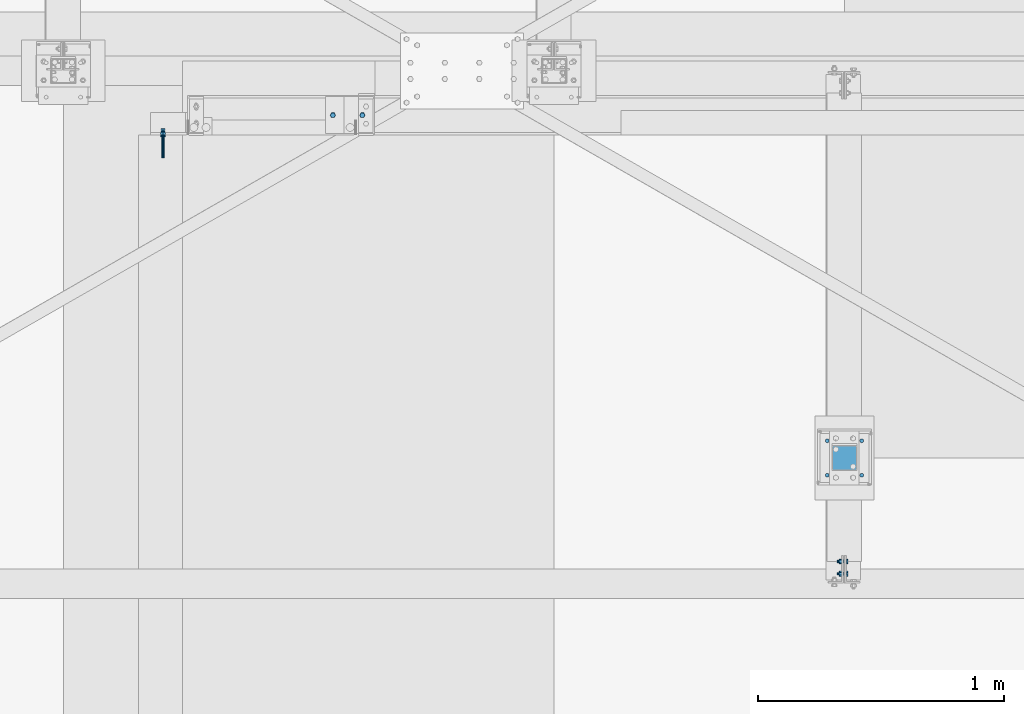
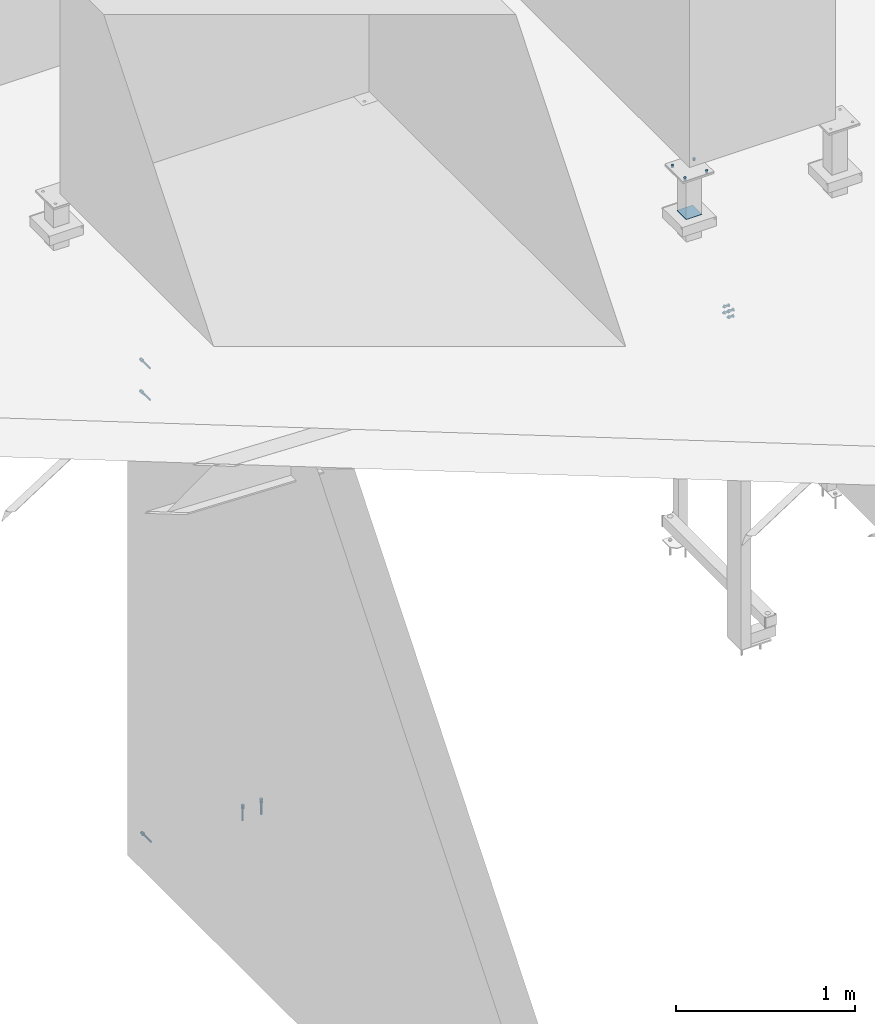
# One storey, part 367 of 3134: 7 mechanical fasteners, 5 elements without a shape of their own.
"""IFC2X3 building model written with IfcOpenShell, lengths in millimetres."""

from ifc_helpers import new_model, si_unit, frame, origin_with_axes, place, context, subcontext, project, spatial, faceted_brep, source, transform, mapped, material, type_object, element, aggregate, save


model = new_model("IFC2X3")

# Units and contexts
model_context = context("Model", 3, precision=1e-05, world=origin_with_axes())
body_context = subcontext(model_context, "Body", "Model", "MODEL_VIEW")
ifc_project = project(units=[si_unit("LENGTHUNIT", "METRE", prefix="MILLI"), si_unit("AREAUNIT", "SQUARE_METRE"), si_unit("VOLUMEUNIT", "CUBIC_METRE"), si_unit("MASSUNIT", "GRAM", prefix="KILO"), si_unit("TIMEUNIT", "SECOND"), si_unit("PLANEANGLEUNIT", "RADIAN"), si_unit("SOLIDANGLEUNIT", "STERADIAN"), si_unit("THERMODYNAMICTEMPERATUREUNIT", "DEGREE_CELSIUS"), si_unit("LUMINOUSINTENSITYUNIT", "LUMEN")], contexts=[model_context])

# Site, building, storey
site_placement = place(None, origin_with_axes())
site = spatial("IfcSite", under=ifc_project, at=site_placement, CompositionType="ELEMENT")
building_placement = place(site_placement, origin_with_axes())
building = spatial("IfcBuilding", under=site, at=building_placement, Name="Undefined", CompositionType="ELEMENT")
storey_placement = place(building_placement, origin_with_axes())
storey = spatial("IfcBuildingStorey", under=building, at=storey_placement, Name="Undefined", CompositionType="ELEMENT", Elevation=0.0)

# Assembly, mechanical fastener
assembly_1_placement = place(storey_placement, origin_with_axes())
assembly_1 = element("IfcElementAssembly", 1, at=assembly_1_placement, inside=storey, AssemblyPlace="NOTDEFINED", PredefinedType="RIGID_FRAME")
ifc_material_1 = material(Name="HILTI-HSA")
mechanical_fastener_type = type_object("IfcMechanicalFastenerType", Name="Bolt assembly")
shared_shape_1 = source(origin_with_axes(), body_context, "Body", "Brep", [
    faceted_brep([(10.3923048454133, -4.92, 0.0), (5.19615242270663, -4.92, 9.0), (-5.19615242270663, -4.92, 9.0), (-10.3923048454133, -4.92, 1.27269028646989e-15), (-5.19615242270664, -4.92, -9.0), (5.19615242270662, -4.92, -9.0), (5.19615242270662, 3.0, -9.0), (-5.19615242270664, 3.0, -9.0), (-10.3923048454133, 3.0, 1.27269028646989e-15), (-5.19615242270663, 3.0, 9.0), (5.19615242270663, 3.0, 9.0), (10.3923048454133, 3.0, 0.0), (6.0, 3.0, 0.0), (5.19615242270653, 3.0, 3.00000000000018), (2.99999999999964, 3.0, 5.19615242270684), (-6.21801588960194e-13, 3.0, 6.0), (-3.00000000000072, 3.0, 5.19615242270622), (-5.19615242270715, 3.0, 2.9999999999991), (-6.0, 3.0, -1.24360317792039e-12), (-5.19615242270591, 3.0, -3.00000000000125), (-2.99999999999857, 3.0, -5.19615242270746), (1.85874342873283e-12, 3.0, -6.0), (3.00000000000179, 3.0, -5.1961524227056), (5.19615242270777, 3.0, -2.99999999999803), (5.19615242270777, 103.0, -2.99999999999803), (3.00000000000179, 103.0, -5.1961524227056), (1.85874342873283e-12, 103.0, -6.0), (-2.99999999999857, 103.0, -5.19615242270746), (-5.19615242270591, 103.0, -3.00000000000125), (-6.0, 103.0, -1.24360317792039e-12), (-5.19615242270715, 103.0, 2.9999999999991), (-3.00000000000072, 103.0, 5.19615242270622), (-6.21801588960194e-13, 103.0, 6.0), (2.99999999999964, 103.0, 5.19615242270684), (5.19615242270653, 103.0, 3.00000000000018), (6.0, 103.0, 0.0), (11.5008173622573, 10.0, 0.0), (5.75040868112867, 10.0, 9.96), (-5.75040868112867, 10.0, 9.96), (-11.5008173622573, 10.0, 1.40844391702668e-15), (-5.75040868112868, 10.0, -9.96), (5.75040868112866, 10.0, -9.96), (5.75040868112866, 17.92, -9.96), (-5.75040868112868, 17.92, -9.96), (-11.5008173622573, 17.92, 1.40844391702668e-15), (-5.75040868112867, 17.92, 9.96), (5.75040868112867, 17.92, 9.96), (11.5008173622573, 17.92, 0.0)], [[[0, 1, 2, 3, 4, 5]], [[6, 7, 8, 9, 10, 11]], [[0, 11, 10, 1]], [[1, 10, 9, 2]], [[2, 9, 8, 3]], [[3, 8, 7, 4]], [[4, 7, 6, 5]], [[5, 6, 11, 0]], [[12, 13, 14, 15, 16, 17, 18, 19, 20, 21, 22, 23]], [[24, 25, 26, 27, 28, 29, 30, 31, 32, 33, 34, 35]], [[12, 35, 34, 13]], [[13, 34, 33, 14]], [[14, 33, 32, 15]], [[15, 32, 31, 16]], [[16, 31, 30, 17]], [[17, 30, 29, 18]], [[18, 29, 28, 19]], [[19, 28, 27, 20]], [[20, 27, 26, 21]], [[21, 26, 25, 22]], [[22, 25, 24, 23]], [[23, 24, 35, 12]], [[36, 37, 38, 39, 40, 41]], [[42, 43, 44, 45, 46, 47]], [[36, 47, 46, 37]], [[37, 46, 45, 38]], [[38, 45, 44, 39]], [[39, 44, 43, 40]], [[40, 43, 42, 41]], [[41, 42, 47, 36]]]),
    faceted_brep([(7.0, 3.0, 0.0), (6.06217782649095, 3.0, 3.50000000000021), (3.49999999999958, 3.0, 6.06217782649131), (-7.25435187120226e-13, 3.0, 7.0), (-3.50000000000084, 3.0, 6.06217782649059), (-6.06217782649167, 3.0, 3.49999999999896), (-7.0, 3.0, -1.45087037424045e-12), (-6.06217782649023, 3.0, -3.50000000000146), (-3.49999999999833, 3.0, -6.06217782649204), (2.1685340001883e-12, 3.0, -7.0), (3.50000000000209, 3.0, -6.06217782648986), (6.0621778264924, 3.0, -3.4999999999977), (6.0621778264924, 10.1, -3.4999999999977), (3.50000000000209, 10.1, -6.06217782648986), (2.1685340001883e-12, 10.1, -7.0), (-3.49999999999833, 10.1, -6.06217782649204), (-6.06217782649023, 10.1, -3.50000000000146), (-7.0, 10.1, -1.45087037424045e-12), (-6.06217782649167, 10.1, 3.49999999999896), (-3.50000000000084, 10.1, 6.06217782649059), (-7.25435187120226e-13, 10.1, 7.0), (3.49999999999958, 10.1, 6.06217782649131), (6.06217782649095, 10.1, 3.50000000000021), (7.0, 10.1, 0.0)], [[[0, 1, 2, 3, 4, 5, 6, 7, 8, 9, 10, 11]], [[12, 13, 14, 15, 16, 17, 18, 19, 20, 21, 22, 23]], [[0, 23, 22, 1]], [[1, 22, 21, 2]], [[2, 21, 20, 3]], [[3, 20, 19, 4]], [[4, 19, 18, 5]], [[5, 18, 17, 6]], [[6, 17, 16, 7]], [[7, 16, 15, 8]], [[8, 15, 14, 9]], [[9, 14, 13, 10]], [[10, 13, 12, 11]], [[11, 12, 23, 0]]]),
])
mechanical_fastener_1_placement = place(assembly_1_placement, frame((74235.0, 19550.0, 110.0), z_axis=(1.0, 0.0, 0.0), x_axis=(0.0, 0.0, 1.0)))
mechanical_fastener_1 = element("IfcMechanicalFastener", 2, at=mechanical_fastener_1_placement, type_object=mechanical_fastener_type, material=ifc_material_1, Name="Bolt assembly", NominalDiameter=12.0, NominalLength=100.0, context=body_context, shape_type="MappedRepresentation", body=[
    mapped(shared_shape_1, transform((0.0, 0.0, 0.0))),
])
aggregate(assembly_1, [mechanical_fastener_1])

# Assembly, mechanical fasteners
assembly_2_placement = place(storey_placement, origin_with_axes())
assembly_2 = element("IfcElementAssembly", 3, at=assembly_2_placement, inside=storey, Name="UPN160", AssemblyPlace="NOTDEFINED", PredefinedType="RIGID_FRAME")
shared_shape_2 = source(origin_with_axes(), body_context, "Body", "Brep", [
    faceted_brep([(10.3923048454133, -15.92, 0.0), (5.19615242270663, -15.92, 9.0), (-5.19615242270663, -15.92, 9.0), (-10.3923048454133, -15.92, 1.27269028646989e-15), (-5.19615242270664, -15.92, -9.0), (5.19615242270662, -15.92, -9.0), (5.19615242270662, -8.0, -9.0), (-5.19615242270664, -8.0, -9.0), (-10.3923048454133, -8.0, 1.27269028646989e-15), (-5.19615242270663, -8.0, 9.0), (5.19615242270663, -8.0, 9.0), (10.3923048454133, -8.0, 0.0), (6.0, -8.0, 0.0), (5.19615242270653, -8.0, 3.00000000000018), (2.99999999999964, -8.0, 5.19615242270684), (-6.21801588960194e-13, -8.0, 6.0), (-3.00000000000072, -8.0, 5.19615242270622), (-5.19615242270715, -8.0, 2.9999999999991), (-6.0, -8.0, -1.24360317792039e-12), (-5.19615242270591, -8.0, -3.00000000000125), (-2.99999999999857, -8.0, -5.19615242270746), (1.85874342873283e-12, -8.0, -6.0), (3.00000000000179, -8.0, -5.1961524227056), (5.19615242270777, -8.0, -2.99999999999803), (5.19615242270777, 92.0, -2.99999999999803), (3.00000000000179, 92.0, -5.1961524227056), (1.85874342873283e-12, 92.0, -6.0), (-2.99999999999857, 92.0, -5.19615242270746), (-5.19615242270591, 92.0, -3.00000000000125), (-6.0, 92.0, -1.24360317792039e-12), (-5.19615242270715, 92.0, 2.9999999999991), (-3.00000000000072, 92.0, 5.19615242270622), (-6.21801588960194e-13, 92.0, 6.0), (2.99999999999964, 92.0, 5.19615242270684), (5.19615242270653, 92.0, 3.00000000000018), (6.0, 92.0, 0.0), (11.5008173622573, 0.0, 0.0), (5.75040868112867, 0.0, 9.96), (-5.75040868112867, 0.0, 9.96), (-11.5008173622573, 0.0, 1.40844391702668e-15), (-5.75040868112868, 0.0, -9.96), (5.75040868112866, 0.0, -9.96), (5.75040868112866, 7.92, -9.96), (-5.75040868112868, 7.92, -9.96), (-11.5008173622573, 7.92, 1.40844391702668e-15), (-5.75040868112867, 7.92, 9.96), (5.75040868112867, 7.92, 9.96), (11.5008173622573, 7.92, 0.0)], [[[0, 1, 2, 3, 4, 5]], [[6, 7, 8, 9, 10, 11]], [[0, 11, 10, 1]], [[1, 10, 9, 2]], [[2, 9, 8, 3]], [[3, 8, 7, 4]], [[4, 7, 6, 5]], [[5, 6, 11, 0]], [[12, 13, 14, 15, 16, 17, 18, 19, 20, 21, 22, 23]], [[24, 25, 26, 27, 28, 29, 30, 31, 32, 33, 34, 35]], [[12, 35, 34, 13]], [[13, 34, 33, 14]], [[14, 33, 32, 15]], [[15, 32, 31, 16]], [[16, 31, 30, 17]], [[17, 30, 29, 18]], [[18, 29, 28, 19]], [[19, 28, 27, 20]], [[20, 27, 26, 21]], [[21, 26, 25, 22]], [[22, 25, 24, 23]], [[23, 24, 35, 12]], [[36, 37, 38, 39, 40, 41]], [[42, 43, 44, 45, 46, 47]], [[36, 47, 46, 37]], [[37, 46, 45, 38]], [[38, 45, 44, 39]], [[39, 44, 43, 40]], [[40, 43, 42, 41]], [[41, 42, 47, 36]]]),
    faceted_brep([(7.0, -8.0, 0.0), (6.06217782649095, -8.0, 3.50000000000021), (3.49999999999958, -8.0, 6.06217782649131), (-7.25435187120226e-13, -8.0, 7.0), (-3.50000000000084, -8.0, 6.06217782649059), (-6.06217782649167, -8.0, 3.49999999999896), (-7.0, -8.0, -1.45087037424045e-12), (-6.06217782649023, -8.0, -3.50000000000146), (-3.49999999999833, -8.0, -6.06217782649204), (2.1685340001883e-12, -8.0, -7.0), (3.50000000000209, -8.0, -6.06217782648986), (6.0621778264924, -8.0, -3.4999999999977), (6.0621778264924, 0.0999999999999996, -3.4999999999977), (3.50000000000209, 0.0999999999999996, -6.06217782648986), (2.1685340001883e-12, 0.0999999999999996, -7.0), (-3.49999999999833, 0.0999999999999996, -6.06217782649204), (-6.06217782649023, 0.0999999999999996, -3.50000000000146), (-7.0, 0.0999999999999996, -1.45087037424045e-12), (-6.06217782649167, 0.0999999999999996, 3.49999999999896), (-3.50000000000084, 0.0999999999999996, 6.06217782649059), (-7.25435187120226e-13, 0.0999999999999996, 7.0), (3.49999999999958, 0.0999999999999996, 6.06217782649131), (6.06217782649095, 0.0999999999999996, 3.50000000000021), (7.0, 0.0999999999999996, 0.0)], [[[0, 1, 2, 3, 4, 5, 6, 7, 8, 9, 10, 11]], [[12, 13, 14, 15, 16, 17, 18, 19, 20, 21, 22, 23]], [[0, 23, 22, 1]], [[1, 22, 21, 2]], [[2, 21, 20, 3]], [[3, 20, 19, 4]], [[4, 19, 18, 5]], [[5, 18, 17, 6]], [[6, 17, 16, 7]], [[7, 16, 15, 8]], [[8, 15, 14, 9]], [[9, 14, 13, 10]], [[10, 13, 12, 11]], [[11, 12, 23, 0]]]),
])
mechanical_fastener_2_placement = place(assembly_2_placement, frame((74235.0, 19550.0, 3117.0), z_axis=(1.0, 0.0, 0.0), x_axis=(0.0, 0.0, 1.0)))
mechanical_fastener_2 = element("IfcMechanicalFastener", 4, at=mechanical_fastener_2_placement, type_object=mechanical_fastener_type, material=ifc_material_1, Name="Bolt assembly", NominalDiameter=12.0, NominalLength=100.0, context=body_context, shape_type="MappedRepresentation", body=[
    mapped(shared_shape_2, transform((0.0, 0.0, 0.0))),
])
mechanical_fastener_3_placement = place(assembly_2_placement, frame((74235.0, 19550.0, 3334.0), z_axis=(1.0, 0.0, 0.0), x_axis=(0.0, 0.0, 1.0)))
mechanical_fastener_3 = element("IfcMechanicalFastener", 5, at=mechanical_fastener_3_placement, type_object=mechanical_fastener_type, material=ifc_material_1, Name="Bolt assembly", NominalDiameter=12.0, NominalLength=100.0, context=body_context, shape_type="MappedRepresentation", body=[
    mapped(shared_shape_2, transform((0.0, 0.0, 0.0))),
])
aggregate(assembly_2, [mechanical_fastener_2, mechanical_fastener_3])

# Assembly, mechanical fastener
assembly_3_placement = place(storey_placement, origin_with_axes())
assembly_3 = element("IfcElementAssembly", 6, at=assembly_3_placement, inside=storey, Name="UPN160", AssemblyPlace="NOTDEFINED", PredefinedType="RIGID_FRAME")
shared_shape_3 = source(origin_with_axes(), body_context, "Body", "Brep", [
    faceted_brep([(10.3923048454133, -17.92, 0.0), (5.19615242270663, -17.92, 9.0), (-5.19615242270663, -17.92, 9.0), (-10.3923048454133, -17.92, 1.27269028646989e-15), (-5.19615242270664, -17.92, -9.0), (5.19615242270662, -17.92, -9.0), (5.19615242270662, -10.0, -9.0), (-5.19615242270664, -10.0, -9.0), (-10.3923048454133, -10.0, 1.27269028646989e-15), (-5.19615242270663, -10.0, 9.0), (5.19615242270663, -10.0, 9.0), (10.3923048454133, -10.0, 0.0), (6.0, -10.0, 0.0), (5.19615242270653, -10.0, 3.00000000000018), (2.99999999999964, -10.0, 5.19615242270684), (-6.21801588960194e-13, -10.0, 6.0), (-3.00000000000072, -10.0, 5.19615242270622), (-5.19615242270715, -10.0, 2.9999999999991), (-6.0, -10.0, -1.24360317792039e-12), (-5.19615242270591, -10.0, -3.00000000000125), (-2.99999999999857, -10.0, -5.19615242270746), (1.85874342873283e-12, -10.0, -6.0), (3.00000000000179, -10.0, -5.1961524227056), (5.19615242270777, -10.0, -2.99999999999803), (5.19615242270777, 90.0, -2.99999999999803), (3.00000000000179, 90.0, -5.1961524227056), (1.85874342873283e-12, 90.0, -6.0), (-2.99999999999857, 90.0, -5.19615242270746), (-5.19615242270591, 90.0, -3.00000000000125), (-6.0, 90.0, -1.24360317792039e-12), (-5.19615242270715, 90.0, 2.9999999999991), (-3.00000000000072, 90.0, 5.19615242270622), (-6.21801588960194e-13, 90.0, 6.0), (2.99999999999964, 90.0, 5.19615242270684), (5.19615242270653, 90.0, 3.00000000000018), (6.0, 90.0, 0.0), (11.5008173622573, 0.0, 0.0), (5.75040868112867, 0.0, 9.96), (-5.75040868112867, 0.0, 9.96), (-11.5008173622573, 0.0, 1.40844391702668e-15), (-5.75040868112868, 0.0, -9.96), (5.75040868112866, 0.0, -9.96), (5.75040868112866, 7.92, -9.96), (-5.75040868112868, 7.92, -9.96), (-11.5008173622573, 7.92, 1.40844391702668e-15), (-5.75040868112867, 7.92, 9.96), (5.75040868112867, 7.92, 9.96), (11.5008173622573, 7.92, 0.0)], [[[0, 1, 2, 3, 4, 5]], [[6, 7, 8, 9, 10, 11]], [[0, 11, 10, 1]], [[1, 10, 9, 2]], [[2, 9, 8, 3]], [[3, 8, 7, 4]], [[4, 7, 6, 5]], [[5, 6, 11, 0]], [[12, 13, 14, 15, 16, 17, 18, 19, 20, 21, 22, 23]], [[24, 25, 26, 27, 28, 29, 30, 31, 32, 33, 34, 35]], [[12, 35, 34, 13]], [[13, 34, 33, 14]], [[14, 33, 32, 15]], [[15, 32, 31, 16]], [[16, 31, 30, 17]], [[17, 30, 29, 18]], [[18, 29, 28, 19]], [[19, 28, 27, 20]], [[20, 27, 26, 21]], [[21, 26, 25, 22]], [[22, 25, 24, 23]], [[23, 24, 35, 12]], [[36, 37, 38, 39, 40, 41]], [[42, 43, 44, 45, 46, 47]], [[36, 47, 46, 37]], [[37, 46, 45, 38]], [[38, 45, 44, 39]], [[39, 44, 43, 40]], [[40, 43, 42, 41]], [[41, 42, 47, 36]]]),
    faceted_brep([(7.0, -10.0, 0.0), (6.06217782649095, -10.0, 3.50000000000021), (3.49999999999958, -10.0, 6.06217782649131), (-7.25435187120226e-13, -10.0, 7.0), (-3.50000000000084, -10.0, 6.06217782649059), (-6.06217782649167, -10.0, 3.49999999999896), (-7.0, -10.0, -1.45087037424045e-12), (-6.06217782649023, -10.0, -3.50000000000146), (-3.49999999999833, -10.0, -6.06217782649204), (2.1685340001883e-12, -10.0, -7.0), (3.50000000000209, -10.0, -6.06217782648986), (6.0621778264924, -10.0, -3.4999999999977), (6.0621778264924, 0.0999999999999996, -3.4999999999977), (3.50000000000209, 0.0999999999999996, -6.06217782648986), (2.1685340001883e-12, 0.0999999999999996, -7.0), (-3.49999999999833, 0.0999999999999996, -6.06217782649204), (-6.06217782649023, 0.0999999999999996, -3.50000000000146), (-7.0, 0.0999999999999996, -1.45087037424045e-12), (-6.06217782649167, 0.0999999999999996, 3.49999999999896), (-3.50000000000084, 0.0999999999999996, 6.06217782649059), (-7.25435187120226e-13, 0.0999999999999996, 7.0), (3.49999999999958, 0.0999999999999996, 6.06217782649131), (6.06217782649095, 0.0999999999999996, 3.50000000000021), (7.0, 0.0999999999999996, 0.0)], [[[0, 1, 2, 3, 4, 5, 6, 7, 8, 9, 10, 11]], [[12, 13, 14, 15, 16, 17, 18, 19, 20, 21, 22, 23]], [[0, 23, 22, 1]], [[1, 22, 21, 2]], [[2, 21, 20, 3]], [[3, 20, 19, 4]], [[4, 19, 18, 5]], [[5, 18, 17, 6]], [[6, 17, 16, 7]], [[7, 16, 15, 8]], [[8, 15, 14, 9]], [[9, 14, 13, 10]], [[10, 13, 12, 11]], [[11, 12, 23, 0]]]),
])
mechanical_fastener_4_placement = place(assembly_3_placement, frame((74925.0, 19620.0, 0.0), z_axis=(0.0, 1.0, 0.0), x_axis=(1.0, 0.0, 0.0)))
mechanical_fastener_4 = element("IfcMechanicalFastener", 7, at=mechanical_fastener_4_placement, type_object=mechanical_fastener_type, material=ifc_material_1, Name="Bolt assembly", NominalDiameter=12.0, NominalLength=100.0, context=body_context, shape_type="MappedRepresentation", body=[
    mapped(shared_shape_3, transform((0.0, 0.0, 0.0))),
    mapped(shared_shape_3, transform((120.0, 0.0, 0.0))),
])
aggregate(assembly_3, [mechanical_fastener_4])

assembly_4_placement = place(storey_placement, origin_with_axes())
assembly_4 = element("IfcElementAssembly", 8, at=assembly_4_placement, inside=storey, AssemblyPlace="NOTDEFINED", PredefinedType="RIGID_FRAME")
ifc_material_2 = material(Name="6.8")
shared_shape_4 = source(origin_with_axes(), body_context, "Body", "Brep", [
    faceted_brep([(51.5, 1.36424205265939e-12, 50.0), (51.3858192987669, 1.36424205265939e-12, 50.5740251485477), (51.0606601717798, 1.36424205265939e-12, 51.0606601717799), (50.5740251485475, 1.36424205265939e-12, 51.385819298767), (-50.0000000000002, 1.36424205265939e-12, 51.5), (-50.7500000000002, 1.36424205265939e-12, 51.2990381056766), (-51.2990381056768, 1.36424205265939e-12, 50.7499999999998), (-51.5, 1.36424205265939e-12, 49.9999999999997), (-51.5, 1.36424205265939e-12, -50.0000000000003), (-51.2990381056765, 1.36424205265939e-12, -50.7500000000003), (-50.7499999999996, 1.36424205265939e-12, -51.2990381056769), (-49.9999999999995, 1.36424205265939e-12, -51.5), (50.0000000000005, 1.36424205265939e-12, -51.5), (50.7500000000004, 1.36424205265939e-12, -51.2990381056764), (51.2990381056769, 1.36424205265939e-12, -50.7499999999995), (51.5, 1.36424205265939e-12, -49.9999999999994), (51.5, 5.10000000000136, -49.9999999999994), (51.2990381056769, 5.10000000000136, -50.7499999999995), (50.7500000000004, 5.10000000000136, -51.2990381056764), (50.0000000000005, 5.10000000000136, -51.5), (-49.9999999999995, 5.10000000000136, -51.5), (-50.7499999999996, 5.10000000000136, -51.2990381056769), (-51.2990381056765, 5.10000000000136, -50.7500000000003), (-51.5, 5.10000000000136, -50.0000000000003), (-51.5, 5.10000000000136, 49.9999999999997), (-51.2990381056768, 5.10000000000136, 50.7499999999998), (-50.7500000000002, 5.10000000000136, 51.2990381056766), (-50.0000000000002, 5.10000000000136, 51.5), (50.5740251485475, 5.10000000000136, 51.385819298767), (51.0606601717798, 5.10000000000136, 51.0606601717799), (51.3858192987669, 5.10000000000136, 50.5740251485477), (51.5, 5.10000000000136, 50.0)], [[[0, 1, 2, 3, 4, 5, 6, 7, 8, 9, 10, 11, 12, 13, 14, 15]], [[16, 17, 18, 19, 20, 21, 22, 23, 24, 25, 26, 27, 28, 29, 30, 31]], [[0, 31, 30, 1]], [[1, 30, 29, 2]], [[2, 29, 28, 3]], [[3, 28, 27, 4]], [[4, 27, 26, 5]], [[5, 26, 25, 6]], [[6, 25, 24, 7]], [[7, 24, 23, 8]], [[8, 23, 22, 9]], [[9, 22, 21, 10]], [[10, 21, 20, 11]], [[11, 20, 19, 12]], [[12, 19, 18, 13]], [[13, 18, 17, 14]], [[14, 17, 16, 15]], [[15, 16, 31, 0]]]),
])
mechanical_fastener_5_placement = place(assembly_4_placement, frame((77004.0, 18227.0, 4175.8), z_axis=(0.0, -1.0, 0.0), x_axis=(-1.0, 0.0, 0.0)))
mechanical_fastener_5 = element("IfcMechanicalFastener", 9, at=mechanical_fastener_5_placement, type_object=mechanical_fastener_type, material=ifc_material_2, Name="Bolt assembly", NominalDiameter=10.0, NominalLength=5.0, context=body_context, shape_type="MappedRepresentation", body=[
    mapped(shared_shape_4, transform((0.0, 0.0, 0.0))),
])

assembly_5_placement = place(storey_placement, origin_with_axes())
assembly_5 = element("IfcElementAssembly", 10, at=assembly_5_placement, inside=storey, AssemblyPlace="NOTDEFINED", PredefinedType="RIGID_FRAME")
ifc_material_3 = material(Name="8.8")
shared_shape_5 = source(origin_with_axes(), body_context, "Body", "Brep", [
    faceted_brep([(10.9696551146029, -14.250187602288, 0.0), (5.48482755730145, -14.250187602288, 9.5), (-5.48482755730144, -14.250187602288, 9.5), (-10.9696551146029, -14.250187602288, 1.34339530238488e-15), (-5.48482755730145, -14.250187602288, -9.5), (5.48482755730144, -14.250187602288, -9.50000000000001), (5.48482755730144, -6.25018760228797, -9.50000000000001), (-5.48482755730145, -6.25018760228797, -9.5), (-10.9696551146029, -6.25018760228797, 1.34339530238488e-15), (-5.48482755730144, -6.25018760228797, 9.5), (5.48482755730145, -6.25018760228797, 9.5), (10.9696551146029, -6.25018760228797, 0.0), (6.0, -6.25018760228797, 0.0), (5.19615242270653, -6.25018760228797, 3.00000000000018), (2.99999999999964, -6.25018760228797, 5.19615242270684), (-6.21801588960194e-13, -6.25018760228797, 6.0), (-3.00000000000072, -6.25018760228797, 5.19615242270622), (-5.19615242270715, -6.25018760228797, 2.9999999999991), (-6.0, -6.25018760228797, -1.24360317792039e-12), (-5.19615242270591, -6.25018760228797, -3.00000000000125), (-2.99999999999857, -6.25018760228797, -5.19615242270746), (1.85874342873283e-12, -6.25018760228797, -6.0), (3.00000000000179, -6.25018760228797, -5.1961524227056), (5.19615242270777, -6.25018760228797, -2.99999999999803), (5.19615242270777, 28.749812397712, -2.99999999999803), (3.00000000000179, 28.749812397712, -5.1961524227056), (1.85874342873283e-12, 28.749812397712, -6.0), (-2.99999999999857, 28.749812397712, -5.19615242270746), (-5.19615242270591, 28.749812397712, -3.00000000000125), (-6.0, 28.749812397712, -1.24360317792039e-12), (-5.19615242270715, 28.749812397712, 2.9999999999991), (-3.00000000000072, 28.749812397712, 5.19615242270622), (-6.21801588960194e-13, 28.749812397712, 6.0), (2.99999999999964, 28.749812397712, 5.19615242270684), (5.19615242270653, 28.749812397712, 3.00000000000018), (6.0, 28.749812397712, 0.0), (10.9696551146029, 11.2575524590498, 0.0), (5.48482755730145, 11.2575524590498, 9.5), (-5.48482755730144, 11.2575524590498, 9.5), (-10.9696551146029, 11.2575524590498, 1.34339530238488e-15), (-5.48482755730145, 11.2575524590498, -9.5), (5.48482755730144, 11.2575524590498, -9.50000000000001), (5.48482755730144, 21.2575524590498, -9.50000000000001), (-5.48482755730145, 21.2575524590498, -9.5), (-10.9696551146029, 21.2575524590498, 1.34339530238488e-15), (-5.48482755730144, 21.2575524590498, 9.5), (5.48482755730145, 21.2575524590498, 9.5), (10.9696551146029, 21.2575524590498, 0.0)], [[[0, 1, 2, 3, 4, 5]], [[6, 7, 8, 9, 10, 11]], [[0, 11, 10, 1]], [[1, 10, 9, 2]], [[2, 9, 8, 3]], [[3, 8, 7, 4]], [[4, 7, 6, 5]], [[5, 6, 11, 0]], [[12, 13, 14, 15, 16, 17, 18, 19, 20, 21, 22, 23]], [[24, 25, 26, 27, 28, 29, 30, 31, 32, 33, 34, 35]], [[12, 35, 34, 13]], [[13, 34, 33, 14]], [[14, 33, 32, 15]], [[15, 32, 31, 16]], [[16, 31, 30, 17]], [[17, 30, 29, 18]], [[18, 29, 28, 19]], [[19, 28, 27, 20]], [[20, 27, 26, 21]], [[21, 26, 25, 22]], [[22, 25, 24, 23]], [[23, 24, 35, 12]], [[36, 37, 38, 39, 40, 41]], [[42, 43, 44, 45, 46, 47]], [[36, 47, 46, 37]], [[37, 46, 45, 38]], [[38, 45, 44, 39]], [[39, 44, 43, 40]], [[40, 43, 42, 41]], [[41, 42, 47, 36]]]),
    faceted_brep([(7.0, 5.15755245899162, 0.0), (6.06217782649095, 5.15755245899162, 3.50000000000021), (3.49999999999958, 5.15755245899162, 6.06217782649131), (-7.25435187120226e-13, 5.15755245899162, 7.0), (-3.50000000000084, 5.15755245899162, 6.06217782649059), (-6.06217782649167, 5.15755245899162, 3.49999999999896), (-7.0, 5.15755245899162, -1.45087037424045e-12), (-6.06217782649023, 5.15755245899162, -3.50000000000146), (-3.49999999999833, 5.15755245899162, -6.06217782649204), (2.1685340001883e-12, 5.15755245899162, -7.0), (3.50000000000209, 5.15755245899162, -6.06217782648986), (6.0621778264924, 5.15755245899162, -3.4999999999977), (6.0621778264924, 11.2575524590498, -3.4999999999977), (3.50000000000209, 11.2575524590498, -6.06217782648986), (2.1685340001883e-12, 11.2575524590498, -7.0), (-3.49999999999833, 11.2575524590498, -6.06217782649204), (-6.06217782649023, 11.2575524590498, -3.50000000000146), (-7.0, 11.2575524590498, -1.45087037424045e-12), (-6.06217782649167, 11.2575524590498, 3.49999999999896), (-3.50000000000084, 11.2575524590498, 6.06217782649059), (-7.25435187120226e-13, 11.2575524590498, 7.0), (3.49999999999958, 11.2575524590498, 6.06217782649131), (6.06217782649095, 11.2575524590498, 3.50000000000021), (7.0, 11.2575524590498, 0.0), (7.0, -6.15018760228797, 0.0), (6.06217782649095, -6.15018760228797, 3.50000000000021), (3.49999999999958, -6.15018760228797, 6.06217782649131), (-7.25435187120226e-13, -6.15018760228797, 7.0), (-3.50000000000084, -6.15018760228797, 6.06217782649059), (-6.06217782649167, -6.15018760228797, 3.49999999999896), (-7.0, -6.15018760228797, -1.45087037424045e-12), (-6.06217782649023, -6.15018760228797, -3.50000000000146), (-3.49999999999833, -6.15018760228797, -6.06217782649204), (2.1685340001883e-12, -6.15018760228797, -7.0), (3.50000000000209, -6.15018760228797, -6.06217782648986), (6.0621778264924, -6.15018760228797, -3.4999999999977), (6.0621778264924, -0.150187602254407, -3.4999999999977), (3.50000000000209, -0.150187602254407, -6.06217782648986), (2.1685340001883e-12, -0.150187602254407, -7.0), (-3.49999999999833, -0.150187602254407, -6.06217782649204), (-6.06217782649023, -0.150187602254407, -3.50000000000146), (-7.0, -0.150187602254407, -1.45087037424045e-12), (-6.06217782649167, -0.150187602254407, 3.49999999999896), (-3.50000000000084, -0.150187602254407, 6.06217782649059), (-7.25435187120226e-13, -0.150187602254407, 7.0), (3.49999999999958, -0.150187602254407, 6.06217782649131), (6.06217782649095, -0.150187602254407, 3.50000000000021), (7.0, -0.150187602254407, 0.0), (7.0, -0.249172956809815, 0.0), (6.06217782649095, -0.249172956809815, 3.50000000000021), (3.49999999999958, -0.249172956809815, 6.06217782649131), (-7.25435187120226e-13, -0.249172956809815, 7.0), (-3.50000000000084, -0.249172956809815, 6.06217782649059), (-6.06217782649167, -0.249172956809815, 3.49999999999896), (-7.0, -0.249172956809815, -1.45087037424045e-12), (-6.06217782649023, -0.249172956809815, -3.50000000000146), (-3.49999999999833, -0.249172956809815, -6.06217782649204), (2.1685340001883e-12, -0.249172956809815, -7.0), (3.50000000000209, -0.249172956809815, -6.06217782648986), (6.0621778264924, -0.249172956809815, -3.4999999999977), (6.0621778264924, 5.25082704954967, -3.4999999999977), (3.50000000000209, 5.25082704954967, -6.06217782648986), (2.1685340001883e-12, 5.25082704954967, -7.0), (-3.49999999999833, 5.25082704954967, -6.06217782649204), (-6.06217782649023, 5.25082704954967, -3.50000000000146), (-7.0, 5.25082704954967, -1.45087037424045e-12), (-6.06217782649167, 5.25082704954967, 3.49999999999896), (-3.50000000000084, 5.25082704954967, 6.06217782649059), (-7.25435187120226e-13, 5.25082704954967, 7.0), (3.49999999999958, 5.25082704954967, 6.06217782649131), (6.06217782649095, 5.25082704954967, 3.50000000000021), (7.0, 5.25082704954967, 0.0)], [[[0, 1, 2, 3, 4, 5, 6, 7, 8, 9, 10, 11]], [[12, 13, 14, 15, 16, 17, 18, 19, 20, 21, 22, 23]], [[0, 23, 22, 1]], [[1, 22, 21, 2]], [[2, 21, 20, 3]], [[3, 20, 19, 4]], [[4, 19, 18, 5]], [[5, 18, 17, 6]], [[6, 17, 16, 7]], [[7, 16, 15, 8]], [[8, 15, 14, 9]], [[9, 14, 13, 10]], [[10, 13, 12, 11]], [[11, 12, 23, 0]], [[24, 25, 26, 27, 28, 29, 30, 31, 32, 33, 34, 35]], [[36, 37, 38, 39, 40, 41, 42, 43, 44, 45, 46, 47]], [[24, 47, 46, 25]], [[25, 46, 45, 26]], [[26, 45, 44, 27]], [[27, 44, 43, 28]], [[28, 43, 42, 29]], [[29, 42, 41, 30]], [[30, 41, 40, 31]], [[31, 40, 39, 32]], [[32, 39, 38, 33]], [[33, 38, 37, 34]], [[34, 37, 36, 35]], [[35, 36, 47, 24]], [[48, 49, 50, 51, 52, 53, 54, 55, 56, 57, 58, 59]], [[60, 61, 62, 63, 64, 65, 66, 67, 68, 69, 70, 71]], [[48, 71, 70, 49]], [[49, 70, 69, 50]], [[50, 69, 68, 51]], [[51, 68, 67, 52]], [[52, 67, 66, 53]], [[53, 66, 65, 54]], [[54, 65, 64, 55]], [[55, 64, 63, 56]], [[56, 63, 62, 57]], [[57, 62, 61, 58]], [[58, 61, 60, 59]], [[59, 60, 71, 48]]]),
])
mechanical_fastener_6_placement = place(assembly_5_placement, frame((77004.0608079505, 17756.68, 3772.66212572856), z_axis=(0.0309396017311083, 0.0, 0.999521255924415), x_axis=(0.0, 1.0, 0.0)))
mechanical_fastener_6 = element("IfcMechanicalFastener", 11, at=mechanical_fastener_6_placement, type_object=mechanical_fastener_type, material=ifc_material_3, Name="Bolt assembly", NominalDiameter=12.0, NominalLength=35.0, context=body_context, shape_type="MappedRepresentation", body=[
    mapped(shared_shape_5, transform((0.0, 0.0, -21.0))),
    mapped(shared_shape_5, transform((50.0, -1.01863406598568e-10, -20.9999999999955))),
    mapped(shared_shape_5, transform((0.0, 0.0, 21.0))),
    mapped(shared_shape_5, transform((50.0, 1.30967237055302e-10, 20.9999999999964))),
])
aggregate(assembly_5, [mechanical_fastener_6])

# Mechanical fastener
shared_shape_6 = source(origin_with_axes(), body_context, "Body", "Brep", [
    faceted_brep([(7.0, -4.90000000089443, 0.0), (6.06217782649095, -4.90000000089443, 3.50000000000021), (3.49999999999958, -4.90000000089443, 6.06217782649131), (-7.25435187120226e-13, -4.90000000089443, 7.0), (-3.50000000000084, -4.90000000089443, 6.06217782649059), (-6.06217782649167, -4.90000000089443, 3.49999999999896), (-7.0, -4.90000000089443, -1.45087037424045e-12), (-6.06217782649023, -4.90000000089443, -3.50000000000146), (-3.49999999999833, -4.90000000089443, -6.06217782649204), (2.1685340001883e-12, -4.90000000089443, -7.0), (3.50000000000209, -4.90000000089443, -6.06217782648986), (6.0621778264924, -4.90000000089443, -3.4999999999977), (6.0621778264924, 0.0999999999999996, -3.4999999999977), (3.50000000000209, 0.0999999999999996, -6.06217782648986), (2.1685340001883e-12, 0.0999999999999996, -7.0), (-3.49999999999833, 0.0999999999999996, -6.06217782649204), (-6.06217782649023, 0.0999999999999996, -3.50000000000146), (-7.0, 0.0999999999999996, -1.45087037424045e-12), (-6.06217782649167, 0.0999999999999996, 3.49999999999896), (-3.50000000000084, 0.0999999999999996, 6.06217782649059), (-7.25435187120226e-13, 0.0999999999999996, 7.0), (3.49999999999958, 0.0999999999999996, 6.06217782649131), (6.06217782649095, 0.0999999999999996, 3.50000000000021), (7.0, 0.0999999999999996, 0.0), (7.0, -0.1, 0.0), (6.06217782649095, -0.1, 3.50000000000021), (3.49999999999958, -0.1, 6.06217782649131), (-7.25435187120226e-13, -0.1, 7.0), (-3.50000000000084, -0.1, 6.06217782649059), (-6.06217782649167, -0.1, 3.49999999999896), (-7.0, -0.1, -1.45087037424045e-12), (-6.06217782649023, -0.1, -3.50000000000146), (-3.49999999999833, -0.1, -6.06217782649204), (2.1685340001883e-12, -0.1, -7.0), (3.50000000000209, -0.1, -6.06217782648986), (6.0621778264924, -0.1, -3.4999999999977), (6.0621778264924, 10.0, -3.4999999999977), (3.50000000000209, 10.0, -6.06217782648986), (2.1685340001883e-12, 10.0, -7.0), (-3.49999999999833, 10.0, -6.06217782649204), (-6.06217782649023, 10.0, -3.50000000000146), (-7.0, 10.0, -1.45087037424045e-12), (-6.06217782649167, 10.0, 3.49999999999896), (-3.50000000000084, 10.0, 6.06217782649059), (-7.25435187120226e-13, 10.0, 7.0), (3.49999999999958, 10.0, 6.06217782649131), (6.06217782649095, 10.0, 3.50000000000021), (7.0, 10.0, 0.0)], [[[0, 1, 2, 3, 4, 5, 6, 7, 8, 9, 10, 11]], [[12, 13, 14, 15, 16, 17, 18, 19, 20, 21, 22, 23]], [[0, 23, 22, 1]], [[1, 22, 21, 2]], [[2, 21, 20, 3]], [[3, 20, 19, 4]], [[4, 19, 18, 5]], [[5, 18, 17, 6]], [[6, 17, 16, 7]], [[7, 16, 15, 8]], [[8, 15, 14, 9]], [[9, 14, 13, 10]], [[10, 13, 12, 11]], [[11, 12, 23, 0]], [[24, 25, 26, 27, 28, 29, 30, 31, 32, 33, 34, 35]], [[36, 37, 38, 39, 40, 41, 42, 43, 44, 45, 46, 47]], [[24, 47, 46, 25]], [[25, 46, 45, 26]], [[26, 45, 44, 27]], [[27, 44, 43, 28]], [[28, 43, 42, 29]], [[29, 42, 41, 30]], [[30, 41, 40, 31]], [[31, 40, 39, 32]], [[32, 39, 38, 33]], [[33, 38, 37, 34]], [[34, 37, 36, 35]], [[35, 36, 47, 24]]]),
])
mechanical_fastener_7_placement = place(assembly_4_placement, frame((77004.0, 18157.0, 4475.0), z_axis=(-1.0, 0.0, 0.0), x_axis=(0.0, 1.0, 0.0)))
mechanical_fastener_7 = element("IfcMechanicalFastener", 12, at=mechanical_fastener_7_placement, type_object=mechanical_fastener_type, material=ifc_material_3, Name="Bolt assembly", NominalDiameter=12.0, NominalLength=15.0, context=body_context, shape_type="MappedRepresentation", body=[
    mapped(shared_shape_6, transform((0.0, 0.0, -70.0))),
    mapped(shared_shape_6, transform((140.0, 0.0, -70.0))),
    mapped(shared_shape_6, transform((0.0, 0.0, 70.0))),
    mapped(shared_shape_6, transform((140.0, 0.0, 70.0))),
])

aggregate(assembly_4, [mechanical_fastener_5, mechanical_fastener_7])

save(model, "model.ifc")
